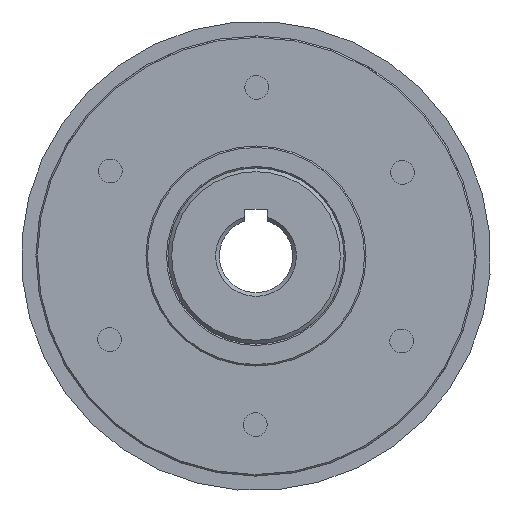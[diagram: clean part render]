
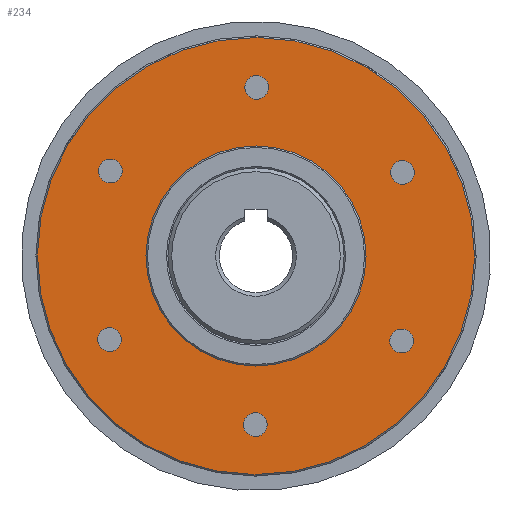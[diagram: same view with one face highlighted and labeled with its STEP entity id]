
A CAD part, left-side view. The second image highlights one B-rep face of the part: STEP entity #234.
In plain terms, the highlighted planar face has unit normal (-1, 0, 0).
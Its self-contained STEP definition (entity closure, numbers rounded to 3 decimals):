
#234 = ADVANCED_FACE( '', ( #469, #470, #471, #472, #473, #474, #475, #476 ), #477, .T. );
#469 = FACE_BOUND( '', #778, .T. );
#470 = FACE_BOUND( '', #779, .T. );
#471 = FACE_BOUND( '', #780, .T. );
#472 = FACE_BOUND( '', #781, .T. );
#473 = FACE_BOUND( '', #782, .T. );
#474 = FACE_BOUND( '', #783, .T. );
#475 = FACE_OUTER_BOUND( '', #784, .T. );
#476 = FACE_BOUND( '', #785, .T. );
#477 = PLANE( '', #786 );
#778 = EDGE_LOOP( '', ( #1080 ) );
#779 = EDGE_LOOP( '', ( #1081 ) );
#780 = EDGE_LOOP( '', ( #1082 ) );
#781 = EDGE_LOOP( '', ( #1083 ) );
#782 = EDGE_LOOP( '', ( #1084 ) );
#783 = EDGE_LOOP( '', ( #1085 ) );
#784 = EDGE_LOOP( '', ( #1086 ) );
#785 = EDGE_LOOP( '', ( #1087 ) );
#786 = AXIS2_PLACEMENT_3D( '', #1088, #1089, #1090 );
#1080 = ORIENTED_EDGE( '', *, *, #1467, .T. );
#1081 = ORIENTED_EDGE( '', *, *, #1479, .T. );
#1082 = ORIENTED_EDGE( '', *, *, #1480, .T. );
#1083 = ORIENTED_EDGE( '', *, *, #1451, .T. );
#1084 = ORIENTED_EDGE( '', *, *, #1459, .T. );
#1085 = ORIENTED_EDGE( '', *, *, #1481, .T. );
#1086 = ORIENTED_EDGE( '', *, *, #1482, .T. );
#1087 = ORIENTED_EDGE( '', *, *, #1483, .F. );
#1088 = CARTESIAN_POINT( '', ( 6.3, 0., 15. ) );
#1089 = DIRECTION( '', ( -1., 0., 0. ) );
#1090 = DIRECTION( '', ( 0., 0., 1. ) );
#1451 = EDGE_CURVE( '', #1607, #1607, #1608, .T. );
#1459 = EDGE_CURVE( '', #1621, #1621, #1622, .T. );
#1467 = EDGE_CURVE( '', #1634, #1634, #1635, .T. );
#1479 = EDGE_CURVE( '', #1652, #1652, #1653, .T. );
#1480 = EDGE_CURVE( '', #1654, #1654, #1655, .T. );
#1481 = EDGE_CURVE( '', #1656, #1656, #1657, .T. );
#1482 = EDGE_CURVE( '', #1658, #1658, #1659, .T. );
#1483 = EDGE_CURVE( '', #1660, #1660, #1661, .T. );
#1607 = VERTEX_POINT( '', #1834 );
#1608 = CIRCLE( '', #1835, 1.621 );
#1621 = VERTEX_POINT( '', #1850 );
#1622 = CIRCLE( '', #1851, 1.621 );
#1634 = VERTEX_POINT( '', #1863 );
#1635 = CIRCLE( '', #1864, 1.621 );
#1652 = VERTEX_POINT( '', #1881 );
#1653 = CIRCLE( '', #1882, 1.621 );
#1654 = VERTEX_POINT( '', #1883 );
#1655 = CIRCLE( '', #1884, 1.621 );
#1656 = VERTEX_POINT( '', #1885 );
#1657 = CIRCLE( '', #1886, 1.621 );
#1658 = VERTEX_POINT( '', #1887 );
#1659 = CIRCLE( '', #1888, 29.8 );
#1660 = VERTEX_POINT( '', #1889 );
#1661 = CIRCLE( '', #1890, 15. );
#1834 = CARTESIAN_POINT( '', ( 6.3, -21.322, -12.311 ) );
#1835 = AXIS2_PLACEMENT_3D( '', #2389, #2390, #2391 );
#1850 = CARTESIAN_POINT( '', ( 6.3, -21.322, 12.311 ) );
#1851 = AXIS2_PLACEMENT_3D( '', #2403, #2404, #2405 );
#1863 = CARTESIAN_POINT( '', ( 6.3, 21.322, 12.311 ) );
#1864 = AXIS2_PLACEMENT_3D( '', #2418, #2419, #2420 );
#1881 = CARTESIAN_POINT( '', ( 6.3, 21.322, -12.311 ) );
#1882 = AXIS2_PLACEMENT_3D( '', #2436, #2437, #2438 );
#1883 = CARTESIAN_POINT( '', ( 6.3, 0., -24.621 ) );
#1884 = AXIS2_PLACEMENT_3D( '', #2439, #2440, #2441 );
#1885 = CARTESIAN_POINT( '', ( 6.3, 0., 24.621 ) );
#1886 = AXIS2_PLACEMENT_3D( '', #2442, #2443, #2444 );
#1887 = CARTESIAN_POINT( '', ( 6.3, 0., 29.8 ) );
#1888 = AXIS2_PLACEMENT_3D( '', #2445, #2446, #2447 );
#1889 = CARTESIAN_POINT( '', ( 6.3, 0., 15. ) );
#1890 = AXIS2_PLACEMENT_3D( '', #2448, #2449, #2450 );
#2389 = CARTESIAN_POINT( '', ( 6.3, -19.919, -11.5 ) );
#2390 = DIRECTION( '', ( 1., 0., 0. ) );
#2391 = DIRECTION( '', ( 0., -0.866, -0.5 ) );
#2403 = CARTESIAN_POINT( '', ( 6.3, -19.919, 11.5 ) );
#2404 = DIRECTION( '', ( 1., 0., 0. ) );
#2405 = DIRECTION( '', ( 0., -0.866, 0.5 ) );
#2418 = CARTESIAN_POINT( '', ( 6.3, 19.919, 11.5 ) );
#2419 = DIRECTION( '', ( 1., 0., 0. ) );
#2420 = DIRECTION( '', ( 0., 0.866, 0.5 ) );
#2436 = CARTESIAN_POINT( '', ( 6.3, 19.919, -11.5 ) );
#2437 = DIRECTION( '', ( 1., 0., 0. ) );
#2438 = DIRECTION( '', ( 0., 0.866, -0.5 ) );
#2439 = CARTESIAN_POINT( '', ( 6.3, 0., -23. ) );
#2440 = DIRECTION( '', ( 1., 0., 0. ) );
#2441 = DIRECTION( '', ( 0., 0., -1. ) );
#2442 = CARTESIAN_POINT( '', ( 6.3, 0., 23. ) );
#2443 = DIRECTION( '', ( 1., 0., 0. ) );
#2444 = DIRECTION( '', ( 0., 0., 1. ) );
#2445 = CARTESIAN_POINT( '', ( 6.3, 0., 0. ) );
#2446 = DIRECTION( '', ( -1., 0., 0. ) );
#2447 = DIRECTION( '', ( 0., 0., 1. ) );
#2448 = CARTESIAN_POINT( '', ( 6.3, 0., 0. ) );
#2449 = DIRECTION( '', ( -1., 0., 0. ) );
#2450 = DIRECTION( '', ( 0., 0., 1. ) );
